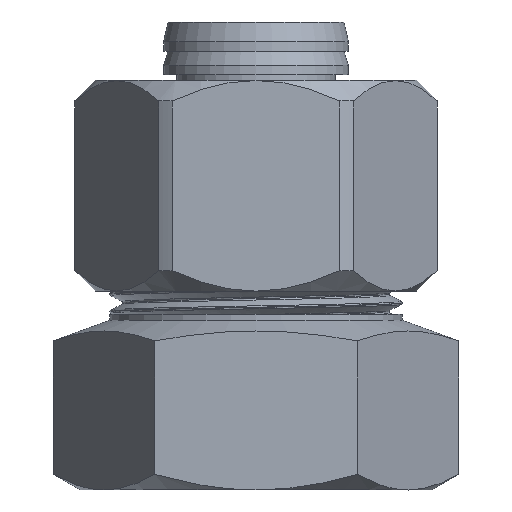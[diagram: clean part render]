
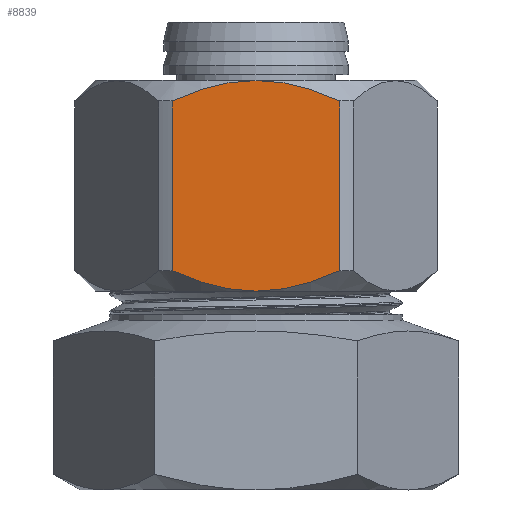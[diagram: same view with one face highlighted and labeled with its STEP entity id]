
A CAD part, left-side view. The second image highlights one B-rep face of the part: STEP entity #8839.
In plain terms, the highlighted planar face has unit normal (-1, 0, 0).
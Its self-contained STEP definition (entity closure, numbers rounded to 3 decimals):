
#1121=PLANE('',#9450);
#1372=LINE('',#20589,#1868);
#1377=LINE('',#20597,#1873);
#1868=VECTOR('',#10308,10.);
#1873=VECTOR('',#10319,10.);
#2353=FACE_OUTER_BOUND('',#2882,.T.);
#2882=EDGE_LOOP('',(#6707,#6708,#6709,#6710,#6711,#6712));
#3534=(
BOUNDED_CURVE()
B_SPLINE_CURVE(2,(#20513,#20514,#20515),.UNSPECIFIED.,.F.,.F.)
B_SPLINE_CURVE_WITH_KNOTS((3,3),(0.213,0.989),
 .UNSPECIFIED.)
CURVE()
GEOMETRIC_REPRESENTATION_ITEM()
RATIONAL_B_SPLINE_CURVE((1.017,1.04,1.))
REPRESENTATION_ITEM('')
);
#3535=(
BOUNDED_CURVE()
B_SPLINE_CURVE(2,(#20519,#20520,#20521),.UNSPECIFIED.,.F.,.F.)
B_SPLINE_CURVE_WITH_KNOTS((3,3),(0.989,1.765),
 .UNSPECIFIED.)
CURVE()
GEOMETRIC_REPRESENTATION_ITEM()
RATIONAL_B_SPLINE_CURVE((1.,1.04,1.017))
REPRESENTATION_ITEM('')
);
#3539=(
BOUNDED_CURVE()
B_SPLINE_CURVE(2,(#20540,#20541,#20542),.UNSPECIFIED.,.F.,.F.)
B_SPLINE_CURVE_WITH_KNOTS((3,3),(0.05,0.799),
 .UNSPECIFIED.)
CURVE()
GEOMETRIC_REPRESENTATION_ITEM()
RATIONAL_B_SPLINE_CURVE((1.004,1.033,1.))
REPRESENTATION_ITEM('')
);
#3542=(
BOUNDED_CURVE()
B_SPLINE_CURVE(2,(#20555,#20556,#20557),.UNSPECIFIED.,.F.,.F.)
B_SPLINE_CURVE_WITH_KNOTS((3,3),(0.799,1.548),
 .UNSPECIFIED.)
CURVE()
GEOMETRIC_REPRESENTATION_ITEM()
RATIONAL_B_SPLINE_CURVE((1.,1.033,1.004))
REPRESENTATION_ITEM('')
);
#3814=VERTEX_POINT('',#20444);
#3832=VERTEX_POINT('',#20510);
#3833=VERTEX_POINT('',#20512);
#3834=VERTEX_POINT('',#20518);
#3838=VERTEX_POINT('',#20539);
#3841=VERTEX_POINT('',#20553);
#4895=EDGE_CURVE('',#3833,#3832,#3534,.T.);
#4897=EDGE_CURVE('',#3832,#3834,#3535,.T.);
#4904=EDGE_CURVE('',#3838,#3814,#3539,.T.);
#4909=EDGE_CURVE('',#3814,#3841,#3542,.T.);
#4919=EDGE_CURVE('',#3841,#3833,#1372,.T.);
#4924=EDGE_CURVE('',#3838,#3834,#1377,.T.);
#6707=ORIENTED_EDGE('',*,*,#4895,.T.);
#6708=ORIENTED_EDGE('',*,*,#4897,.T.);
#6709=ORIENTED_EDGE('',*,*,#4924,.F.);
#6710=ORIENTED_EDGE('',*,*,#4904,.T.);
#6711=ORIENTED_EDGE('',*,*,#4909,.T.);
#6712=ORIENTED_EDGE('',*,*,#4919,.T.);
#8839=ADVANCED_FACE('',(#2353),#1121,.T.);
#9450=AXIS2_PLACEMENT_3D('',#20598,#10320,#10321);
#10308=DIRECTION('',(0.,0.,-1.));
#10319=DIRECTION('',(0.,0.,-1.));
#10320=DIRECTION('center_axis',(-1.,0.,0.));
#10321=DIRECTION('ref_axis',(0.,1.,0.));
#20444=CARTESIAN_POINT('',(-13.75,0.,0.));
#20510=CARTESIAN_POINT('',(-13.75,0.,-18.));
#20512=CARTESIAN_POINT('',(-13.75,7.155,-16.25));
#20513=CARTESIAN_POINT('Ctrl Pts',(-13.75,7.155,-16.25));
#20514=CARTESIAN_POINT('Ctrl Pts',(-13.75,3.363,-18.));
#20515=CARTESIAN_POINT('Ctrl Pts',(-13.75,0.,-18.));
#20518=CARTESIAN_POINT('',(-13.75,-7.155,-16.25));
#20519=CARTESIAN_POINT('Ctrl Pts',(-13.75,0.,-18.));
#20520=CARTESIAN_POINT('Ctrl Pts',(-13.75,-3.363,-18.));
#20521=CARTESIAN_POINT('Ctrl Pts',(-13.75,-7.155,-16.25));
#20539=CARTESIAN_POINT('',(-13.75,-7.155,-1.75));
#20540=CARTESIAN_POINT('Ctrl Pts',(-13.75,-7.155,-1.75));
#20541=CARTESIAN_POINT('Ctrl Pts',(-13.75,-3.363,0.));
#20542=CARTESIAN_POINT('Ctrl Pts',(-13.75,0.,0.));
#20553=CARTESIAN_POINT('',(-13.75,7.155,-1.75));
#20555=CARTESIAN_POINT('Ctrl Pts',(-13.75,0.,0.));
#20556=CARTESIAN_POINT('Ctrl Pts',(-13.75,3.363,0.));
#20557=CARTESIAN_POINT('Ctrl Pts',(-13.75,7.155,-1.75));
#20589=CARTESIAN_POINT('',(-13.75,7.155,0.));
#20597=CARTESIAN_POINT('',(-13.75,-7.155,0.));
#20598=CARTESIAN_POINT('Origin',(-13.75,-7.155,0.));
